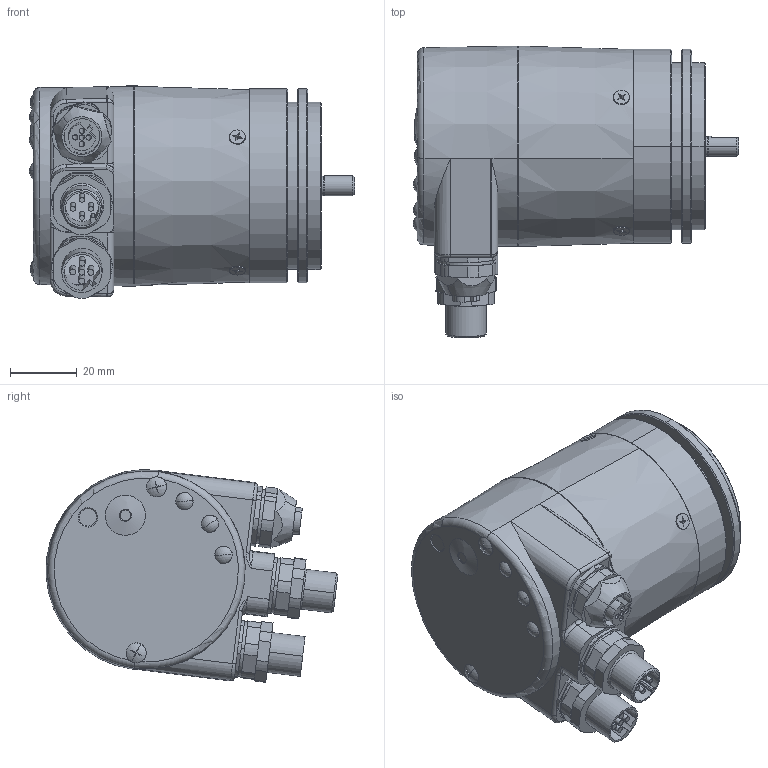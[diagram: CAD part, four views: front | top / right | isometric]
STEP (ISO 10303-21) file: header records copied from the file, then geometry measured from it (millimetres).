
FILE_DESCRIPTION (( 'STEP AP214' ), '1' );
FILE_NAME ('5868.2132.XXXX.STEP', '2008-06-12T09:55:56', ( 'admin' ), ( 'Fritz Kübler GmbH' ), 'SwSTEP 2.0', 'SolidWorks 2007', '' );
FILE_SCHEMA (( 'AUTOMOTIVE_DESIGN' ));
Length unit declared in the file: millimetre
Products named in the file (1): 5868.2132.XXXX
Bounding box: 97.2 x 87.2 x 63.55 mm (x, y, z)
Surface area: 31150.2 mm2 (no closed solid volume)
Topology: 0 solids, 27 shells, 464 faces, 1194 edges, 763 vertices
Faces by surface type: plane 203, cylinder 175, cone 50, torus 16, sphere 11, bspline 9
Entity records: 19784 total; most frequent: CARTESIAN_POINT 3223, DIRECTION 2558, ORIENTED_EDGE 2179, EDGE_CURVE 1189, AXIS2_PLACEMENT_3D 958, VERTEX_POINT 763, VECTOR 642, LINE 642
